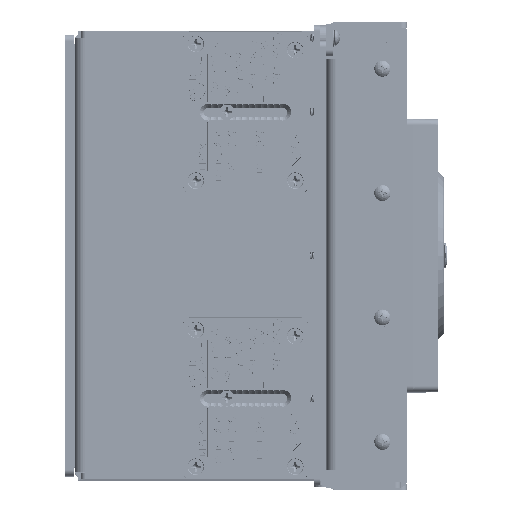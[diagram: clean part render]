
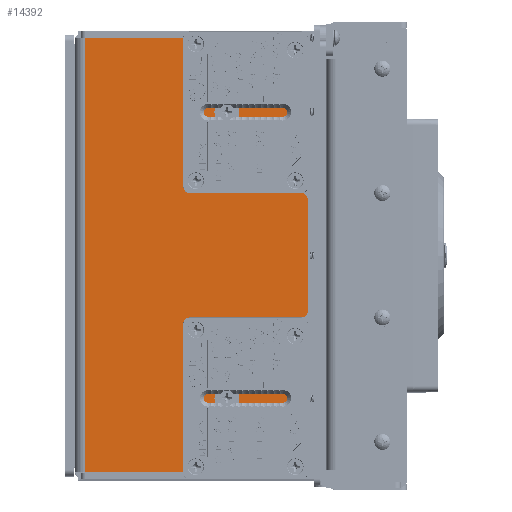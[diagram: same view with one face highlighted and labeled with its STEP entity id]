
A CAD part, top view. The second image highlights one B-rep face of the part: STEP entity #14392.
In plain terms, the highlighted planar face has unit normal (0, 0, 1).
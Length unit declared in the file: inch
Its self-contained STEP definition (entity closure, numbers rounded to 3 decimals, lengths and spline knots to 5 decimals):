
#646 = VECTOR ( 'NONE', #234449, 39.37008 ) ;
#2026 = CARTESIAN_POINT ( 'NONE',  ( -2.25, -2.875, 7.825 ) ) ;
#2862 = ORIENTED_EDGE ( 'NONE', *, *, #200934, .F. ) ;
#8398 = CARTESIAN_POINT ( 'NONE',  ( -0.20374, -4.26501, 7.825 ) ) ;
#11337 = LINE ( 'NONE', #221597, #158520 ) ;
#13316 = ORIENTED_EDGE ( 'NONE', *, *, #238012, .T. ) ;
#14392 = ADVANCED_FACE ( 'NONE', ( #199882, #285325, #167878 ), #273963, .T. ) ;
#25411 = VECTOR ( 'NONE', #243921, 39.37008 ) ;
#29761 = VECTOR ( 'NONE', #298858, 39.37008 ) ;
#41520 = VERTEX_POINT ( 'NONE', #305372 ) ;
#41765 = EDGE_CURVE ( 'NONE', #73099, #284556, #303767, .T. ) ;
#41850 = CIRCLE ( 'NONE', #254087, 0.13282 ) ;
#42431 = EDGE_LOOP ( 'NONE', ( #112765, #141851, #84890, #291294, #13316, #138530, #69117, #2862 ) ) ;
#43633 = DIRECTION ( 'NONE',  ( 0., 0., 1. ) ) ;
#48706 = VECTOR ( 'NONE', #187529, 39.37008 ) ;
#49681 = CIRCLE ( 'NONE', #286353, 0.13282 ) ;
#51632 = CARTESIAN_POINT ( 'NONE',  ( -2.11719, -2.875, 7.825 ) ) ;
#58350 = DIRECTION ( 'NONE',  ( 0., 0., 1. ) ) ;
#69117 = ORIENTED_EDGE ( 'NONE', *, *, #182340, .F. ) ;
#69123 = VERTEX_POINT ( 'NONE', #123922 ) ;
#69213 = CARTESIAN_POINT ( 'NONE',  ( -0.23499, -4.36, 7.825 ) ) ;
#73099 = VERTEX_POINT ( 'NONE', #269994 ) ;
#73144 = DIRECTION ( 'NONE',  ( 0., 0., 1. ) ) ;
#74655 = CARTESIAN_POINT ( 'NONE',  ( -2.25, -2.875, 7.825 ) ) ;
#78563 = CARTESIAN_POINT ( 'NONE',  ( -5.10876, -4.36439, 7.825 ) ) ;
#78706 = VERTEX_POINT ( 'NONE', #51632 ) ;
#79634 = DIRECTION ( 'NONE',  ( 0., -1., 0. ) ) ;
#81357 = CIRCLE ( 'NONE', #229387, 0.13282 ) ;
#84890 = ORIENTED_EDGE ( 'NONE', *, *, #282247, .T. ) ;
#93302 = CARTESIAN_POINT ( 'NONE',  ( -5.3125, 4.36, 7.825 ) ) ;
#94749 = VECTOR ( 'NONE', #150715, 39.37008 ) ;
#99411 = LINE ( 'NONE', #93302, #48706 ) ;
#100149 = VECTOR ( 'NONE', #79634, 39.37008 ) ;
#112765 = ORIENTED_EDGE ( 'NONE', *, *, #291977, .T. ) ;
#115270 = EDGE_LOOP ( 'NONE', ( #184305, #270171 ) ) ;
#122480 = VECTOR ( 'NONE', #250581, 39.37008 ) ;
#123922 = CARTESIAN_POINT ( 'NONE',  ( -2.38282, -2.875, 7.825 ) ) ;
#127993 = DIRECTION ( 'NONE',  ( 1., 0., 0. ) ) ;
#132963 = EDGE_CURVE ( 'NONE', #78706, #69123, #81357, .T. ) ;
#134527 = ORIENTED_EDGE ( 'NONE', *, *, #243686, .F. ) ;
#135706 = LINE ( 'NONE', #257631, #646 ) ;
#136201 = VERTEX_POINT ( 'NONE', #253125 ) ;
#138530 = ORIENTED_EDGE ( 'NONE', *, *, #171867, .F. ) ;
#141851 = ORIENTED_EDGE ( 'NONE', *, *, #198795, .T. ) ;
#144902 = CARTESIAN_POINT ( 'NONE',  ( -2.11719, 2.875, 7.825 ) ) ;
#148997 = EDGE_LOOP ( 'NONE', ( #283039, #134527 ) ) ;
#150715 = DIRECTION ( 'NONE',  ( 0., 1., 0. ) ) ;
#154843 = VERTEX_POINT ( 'NONE', #175793 ) ;
#157584 = CARTESIAN_POINT ( 'NONE',  ( -0.23499, 4.36, 7.825 ) ) ;
#157828 = LINE ( 'NONE', #275227, #122480 ) ;
#158286 = LINE ( 'NONE', #227858, #29761 ) ;
#158520 = VECTOR ( 'NONE', #241724, 39.37008 ) ;
#165118 = VERTEX_POINT ( 'NONE', #157584 ) ;
#165875 = DIRECTION ( 'NONE',  ( 0., 0., 1. ) ) ;
#167234 = CARTESIAN_POINT ( 'NONE',  ( -0.23499, 4.26501, 7.825 ) ) ;
#167878 = FACE_OUTER_BOUND ( 'NONE', #42431, .T. ) ;
#170516 = AXIS2_PLACEMENT_3D ( 'NONE', #192472, #190952, #215695 ) ;
#170775 = CARTESIAN_POINT ( 'NONE',  ( -0.23499, 4.5, 7.825 ) ) ;
#171867 = EDGE_CURVE ( 'NONE', #198520, #154843, #135706, .T. ) ;
#173513 = DIRECTION ( 'NONE',  ( 1., 0., 0. ) ) ;
#175793 = CARTESIAN_POINT ( 'NONE',  ( -0.20374, 4.26501, 7.825 ) ) ;
#182340 = EDGE_CURVE ( 'NONE', #165118, #198520, #218755, .T. ) ;
#184305 = ORIENTED_EDGE ( 'NONE', *, *, #290727, .F. ) ;
#185356 = EDGE_CURVE ( 'NONE', #260891, #41520, #158286, .T. ) ;
#187529 = DIRECTION ( 'NONE',  ( 1., 0., 0. ) ) ;
#190952 = DIRECTION ( 'NONE',  ( 0., 0., 1. ) ) ;
#191451 = VERTEX_POINT ( 'NONE', #279156 ) ;
#192472 = CARTESIAN_POINT ( 'NONE',  ( -2.25, 2.875, 7.825 ) ) ;
#198158 = VERTEX_POINT ( 'NONE', #69213 ) ;
#198520 = VERTEX_POINT ( 'NONE', #167234 ) ;
#198795 = EDGE_CURVE ( 'NONE', #191451, #198158, #157828, .T. ) ;
#199882 = FACE_BOUND ( 'NONE', #115270, .T. ) ;
#200934 = EDGE_CURVE ( 'NONE', #136201, #165118, #99411, .T. ) ;
#215322 = DIRECTION ( 'NONE',  ( 1., 0., 0. ) ) ;
#215695 = DIRECTION ( 'NONE',  ( 1., 0., 0. ) ) ;
#218755 = LINE ( 'NONE', #291317, #100149 ) ;
#221597 = CARTESIAN_POINT ( 'NONE',  ( -0.20374, 4.5, 7.825 ) ) ;
#227858 = CARTESIAN_POINT ( 'NONE',  ( -5.3125, -4.26501, 7.825 ) ) ;
#229387 = AXIS2_PLACEMENT_3D ( 'NONE', #2026, #165875, #215322 ) ;
#232182 = DIRECTION ( 'NONE',  ( 1., 0., 0. ) ) ;
#234449 = DIRECTION ( 'NONE',  ( 1., 0., 0. ) ) ;
#238012 = EDGE_CURVE ( 'NONE', #260891, #154843, #11337, .T. ) ;
#241724 = DIRECTION ( 'NONE',  ( 0., 1., 0. ) ) ;
#243686 = EDGE_CURVE ( 'NONE', #69123, #78706, #41850, .T. ) ;
#243921 = DIRECTION ( 'NONE',  ( 0., -1., 0. ) ) ;
#244786 = AXIS2_PLACEMENT_3D ( 'NONE', #298661, #43633, #232182 ) ;
#246483 = LINE ( 'NONE', #170775, #94749 ) ;
#250581 = DIRECTION ( 'NONE',  ( 1., 0., 0. ) ) ;
#253125 = CARTESIAN_POINT ( 'NONE',  ( -5.10876, 4.36, 7.825 ) ) ;
#254087 = AXIS2_PLACEMENT_3D ( 'NONE', #74655, #73144, #173513 ) ;
#257631 = CARTESIAN_POINT ( 'NONE',  ( -5.3125, 4.26501, 7.825 ) ) ;
#260891 = VERTEX_POINT ( 'NONE', #8398 ) ;
#269994 = CARTESIAN_POINT ( 'NONE',  ( -2.38282, 2.875, 7.825 ) ) ;
#270171 = ORIENTED_EDGE ( 'NONE', *, *, #41765, .F. ) ;
#271537 = CARTESIAN_POINT ( 'NONE',  ( -2.25, 2.875, 7.825 ) ) ;
#273963 = PLANE ( 'NONE',  #244786 ) ;
#275227 = CARTESIAN_POINT ( 'NONE',  ( -5.3125, -4.36, 7.825 ) ) ;
#279156 = CARTESIAN_POINT ( 'NONE',  ( -5.10876, -4.36, 7.825 ) ) ;
#282247 = EDGE_CURVE ( 'NONE', #198158, #41520, #246483, .T. ) ;
#283039 = ORIENTED_EDGE ( 'NONE', *, *, #132963, .F. ) ;
#284556 = VERTEX_POINT ( 'NONE', #144902 ) ;
#285325 = FACE_BOUND ( 'NONE', #148997, .T. ) ;
#286353 = AXIS2_PLACEMENT_3D ( 'NONE', #271537, #58350, #127993 ) ;
#290222 = LINE ( 'NONE', #78563, #25411 ) ;
#290727 = EDGE_CURVE ( 'NONE', #284556, #73099, #49681, .T. ) ;
#291294 = ORIENTED_EDGE ( 'NONE', *, *, #185356, .F. ) ;
#291317 = CARTESIAN_POINT ( 'NONE',  ( -0.23499, 4.5, 7.825 ) ) ;
#291977 = EDGE_CURVE ( 'NONE', #136201, #191451, #290222, .T. ) ;
#298661 = CARTESIAN_POINT ( 'NONE',  ( -5.3125, 4.5, 7.825 ) ) ;
#298858 = DIRECTION ( 'NONE',  ( -1., 0., 0. ) ) ;
#303767 = CIRCLE ( 'NONE', #170516, 0.13282 ) ;
#305372 = CARTESIAN_POINT ( 'NONE',  ( -0.23499, -4.26501, 7.825 ) ) ;
